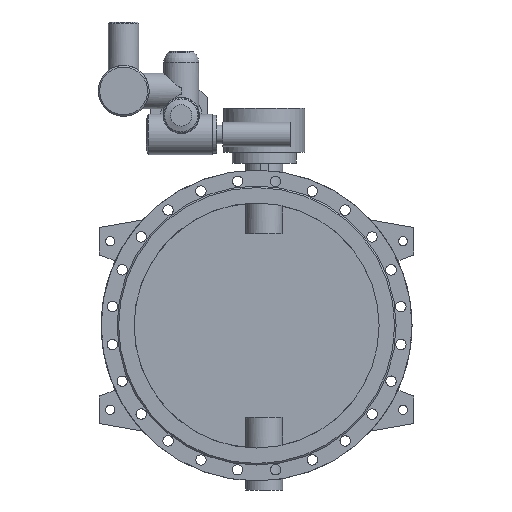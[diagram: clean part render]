
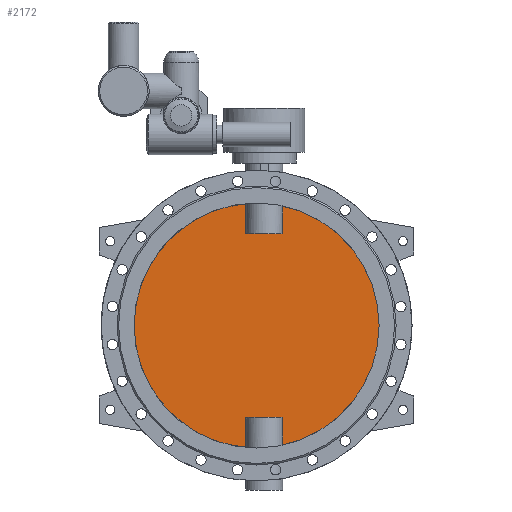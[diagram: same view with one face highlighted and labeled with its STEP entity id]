
A CAD part, front view. The second image highlights one B-rep face of the part: STEP entity #2172.
In plain terms, the highlighted planar face has unit normal (0, -1, 0).
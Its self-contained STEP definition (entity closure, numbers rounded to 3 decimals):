
#2172=ADVANCED_FACE('',(#4391),#4393,.F.);
#4391=FACE_BOUND('',#4392,.T.);
#4392=EDGE_LOOP('',(#5367,#5368,#5369,#5370,#5371,#5372,#5373,#5374));
#4393=PLANE('',#4394);
#4394=AXIS2_PLACEMENT_3D('',#4395,#4396,#4397);
#4395=CARTESIAN_POINT('',(0.,-5.,0.));
#4396=DIRECTION('',(0.,1.,0.));
#4397=DIRECTION('',(1.,0.,0.));
#5367=ORIENTED_EDGE('',*,*,#5856,.T.);
#5368=ORIENTED_EDGE('',*,*,#5861,.T.);
#5369=ORIENTED_EDGE('',*,*,#5862,.T.);
#5370=ORIENTED_EDGE('',*,*,#5863,.T.);
#5371=ORIENTED_EDGE('',*,*,#5858,.T.);
#5372=ORIENTED_EDGE('',*,*,#5864,.T.);
#5373=ORIENTED_EDGE('',*,*,#5865,.T.);
#5374=ORIENTED_EDGE('',*,*,#5866,.T.);
#5856=EDGE_CURVE('',#6717,#6718,#6719,.F.);
#5858=EDGE_CURVE('',#6722,#6720,#6723,.F.);
#5861=EDGE_CURVE('',#6718,#6727,#6728,.T.);
#5862=EDGE_CURVE('',#6727,#6729,#6730,.F.);
#5863=EDGE_CURVE('',#6729,#6722,#6731,.F.);
#5864=EDGE_CURVE('',#6720,#6732,#6733,.F.);
#5865=EDGE_CURVE('',#6732,#6734,#6735,.F.);
#5866=EDGE_CURVE('',#6734,#6717,#6736,.T.);
#6717=VERTEX_POINT('',#10933);
#6718=VERTEX_POINT('',#10934);
#6719=CIRCLE('',#10935,400.);
#6720=VERTEX_POINT('',#10939);
#6722=VERTEX_POINT('',#11046);
#6723=CIRCLE('',#11047,400.);
#6727=VERTEX_POINT('',#11163);
#6728=LINE('',#11164,#11165);
#6729=VERTEX_POINT('',#11167);
#6730=LINE('',#11168,#11169);
#6731=LINE('',#11171,#11172);
#6732=VERTEX_POINT('',#11174);
#6733=LINE('',#11175,#11176);
#6734=VERTEX_POINT('',#11178);
#6735=LINE('',#11179,#11180);
#6736=LINE('',#11182,#11183);
#10933=CARTESIAN_POINT('',(84.791,-5.,-390.91));
#10934=CARTESIAN_POINT('',(84.791,-5.,390.91));
#10935=AXIS2_PLACEMENT_3D('',#10936,#10937,#10938);
#10936=CARTESIAN_POINT('',(0.,-5.,0.));
#10937=DIRECTION('',(0.,1.,0.));
#10938=DIRECTION('',(0.212,0.,0.977));
#10939=CARTESIAN_POINT('',(-34.791,-5.,-398.484));
#11046=CARTESIAN_POINT('',(-34.791,-5.,398.484));
#11047=AXIS2_PLACEMENT_3D('',#11048,#11049,#11050);
#11048=CARTESIAN_POINT('',(0.,-5.,0.));
#11049=DIRECTION('',(0.,1.,0.));
#11050=DIRECTION('',(-0.087,0.,-0.996));
#11163=CARTESIAN_POINT('',(84.791,-5.,300.));
#11164=CARTESIAN_POINT('',(84.791,-5.,390.91));
#11165=VECTOR('',#11166,1.);
#11166=DIRECTION('',(0.,0.,-1.));
#11167=CARTESIAN_POINT('',(-34.791,-5.,300.));
#11168=CARTESIAN_POINT('',(-34.791,-5.,300.));
#11169=VECTOR('',#11170,1.);
#11170=DIRECTION('',(1.,0.,0.));
#11171=CARTESIAN_POINT('',(-34.791,-5.,398.484));
#11172=VECTOR('',#11173,1.);
#11173=DIRECTION('',(0.,0.,-1.));
#11174=CARTESIAN_POINT('',(-34.791,-5.,-300.));
#11175=CARTESIAN_POINT('',(-34.791,-5.,-300.));
#11176=VECTOR('',#11177,1.);
#11177=DIRECTION('',(0.,0.,-1.));
#11178=CARTESIAN_POINT('',(84.791,-5.,-300.));
#11179=CARTESIAN_POINT('',(84.791,-5.,-300.));
#11180=VECTOR('',#11181,1.);
#11181=DIRECTION('',(-1.,0.,0.));
#11182=CARTESIAN_POINT('',(84.791,-5.,-300.));
#11183=VECTOR('',#11184,1.);
#11184=DIRECTION('',(0.,0.,-1.));
